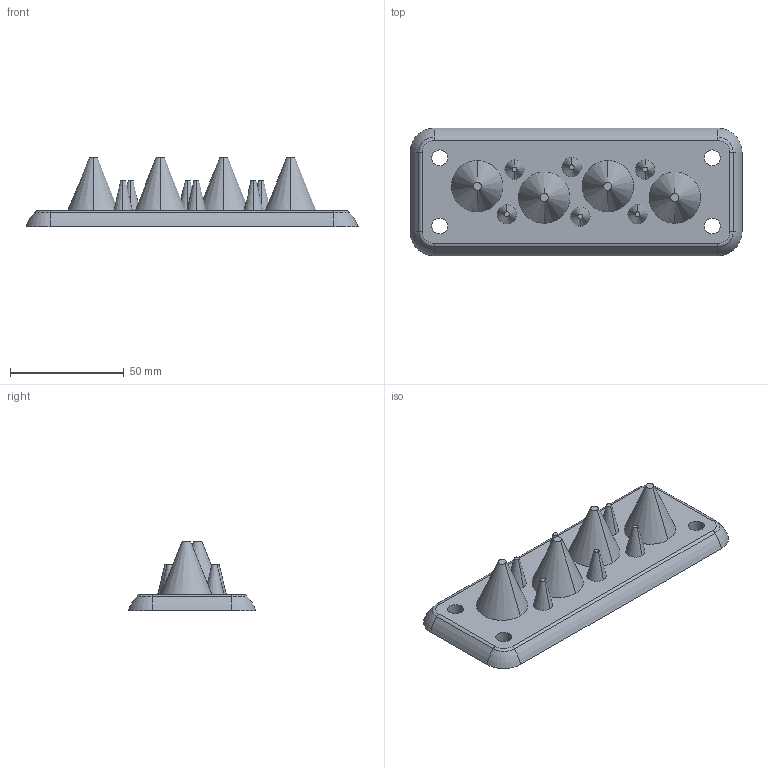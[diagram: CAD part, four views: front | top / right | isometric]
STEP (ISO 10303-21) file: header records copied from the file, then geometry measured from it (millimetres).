
FILE_DESCRIPTION (( 'STEP AP203' ), '1' );
FILE_NAME ('105954.STEP', '2016-02-15T07:13:05', ( '' ), ( '' ), 'SwSTEP 2.0', 'SolidWorks 2016', '' );
FILE_SCHEMA (( 'CONFIG_CONTROL_DESIGN' ));
Length unit declared in the file: millimetre
Products named in the file (1): 105954
Bounding box: 146.2 x 56.2 x 30.5 mm (x, y, z)
Volume: 67721.4 mm3; surface area: 21669.9 mm2
Topology: 1 solids, 1 shells, 56 faces, 124 edges, 80 vertices
Faces by surface type: cone 20, cylinder 16, plane 12, torus 8
Entity records: 1681 total; most frequent: DIRECTION 322, CARTESIAN_POINT 261, ORIENTED_EDGE 248, AXIS2_PLACEMENT_3D 141, EDGE_CURVE 124, CIRCLE 84, VERTEX_POINT 80, EDGE_LOOP 74
